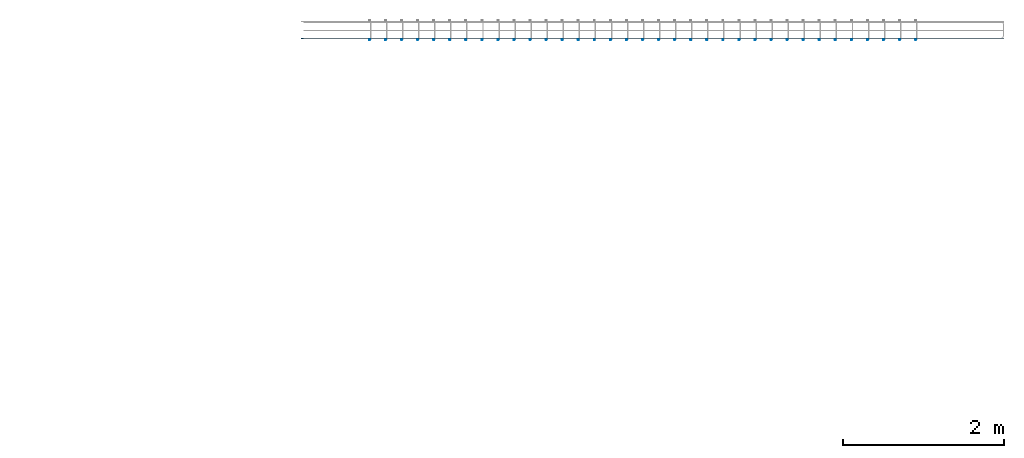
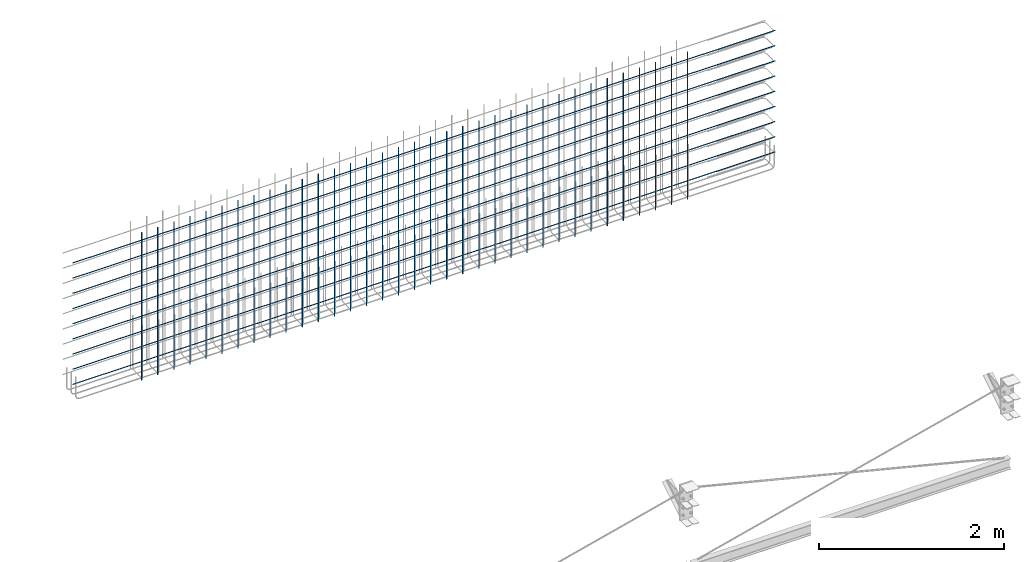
# One storey, part 3 of 21: 2 reinforcing bars.
"""IFC4X3_ADD2 building model written with IfcOpenShell, lengths in millimetres."""

from ifc_helpers import new_model, entity, si_unit, converted_unit, derived_unit, direction, frame, origin, place, context, subcontext, project, spatial, material, type_object, element, save


model = new_model("IFC4X3_ADD2")

# Units and contexts
model_context = context("Model", 3, precision=0.01, world=origin(), true_north=direction((6.123233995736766e-17, 1.0)))
plan_context = context("Plan", 3, precision=0.01, world=origin(), true_north=direction((6.123233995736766e-17, 1.0)))
body_context = subcontext(model_context, "Body", "Model", "MODEL_VIEW")
ifc_project = project(units=[si_unit("LENGTHUNIT", "METRE", prefix="MILLI"), converted_unit("PLANEANGLEUNIT", "DEGREE", entity("IfcPlaneAngleMeasure", 0.017453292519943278), si_unit("PLANEANGLEUNIT", "RADIAN"), dimensions=[0, 0, 0, 0, 0, 0, 0]), si_unit("AREAUNIT", "SQUARE_METRE"), si_unit("VOLUMEUNIT", "CUBIC_METRE"), derived_unit("THERMALTRANSMITTANCEUNIT", [(si_unit("MASSUNIT", "GRAM", prefix="KILO"), 1), (si_unit("THERMODYNAMICTEMPERATUREUNIT", "KELVIN"), -1), (si_unit("TIMEUNIT", "SECOND"), -3)]), derived_unit("USERDEFINED", [(si_unit("MASSUNIT", "GRAM", prefix="KILO"), 1), (si_unit("THERMODYNAMICTEMPERATUREUNIT", "KELVIN"), -1), (si_unit("TIMEUNIT", "SECOND"), -2)]), derived_unit("THERMALRESISTANCEUNIT", [(si_unit("MASSUNIT", "GRAM", prefix="KILO"), -1), (si_unit("TIMEUNIT", "SECOND"), 3), (si_unit("THERMODYNAMICTEMPERATUREUNIT", "KELVIN"), 1)]), si_unit("MASSUNIT", "GRAM", prefix="KILO"), derived_unit("MOMENTOFINERTIAUNIT", [(si_unit("LENGTHUNIT", "METRE"), 4)]), derived_unit("LINEARFORCEUNIT", [(si_unit("MASSUNIT", "GRAM", prefix="KILO"), 1), (si_unit("TIMEUNIT", "SECOND"), -2)]), derived_unit("WARPINGCONSTANTUNIT", [(si_unit("LENGTHUNIT", "METRE"), 6)]), si_unit("PRESSUREUNIT", "PASCAL"), derived_unit("MASSDENSITYUNIT", [(si_unit("MASSUNIT", "GRAM", prefix="KILO"), 1), (si_unit("LENGTHUNIT", "METRE"), -3)]), derived_unit("MODULUSOFELASTICITYUNIT", [(si_unit("MASSUNIT", "GRAM", prefix="KILO"), 1), (si_unit("TIMEUNIT", "SECOND"), -2), (si_unit("LENGTHUNIT", "METRE"), -1)]), derived_unit("THERMALEXPANSIONCOEFFICIENTUNIT", [(si_unit("THERMODYNAMICTEMPERATUREUNIT", "KELVIN"), -1)]), derived_unit("VAPORPERMEABILITYUNIT", [(si_unit("LENGTHUNIT", "METRE"), -1), (si_unit("TIMEUNIT", "SECOND"), 1)]), derived_unit("USERDEFINED", [(si_unit("MASSUNIT", "GRAM", prefix="KILO"), 1), (si_unit("TIMEUNIT", "SECOND"), -3), (si_unit("LENGTHUNIT", "METRE"), 3), (si_unit("ELECTRICCURRENTUNIT", "AMPERE"), -2)]), derived_unit("SPECIFICHEATCAPACITYUNIT", [(si_unit("THERMODYNAMICTEMPERATUREUNIT", "KELVIN"), -1), (si_unit("TIMEUNIT", "SECOND"), -2), (si_unit("LENGTHUNIT", "METRE"), 2)]), derived_unit("THERMALCONDUCTANCEUNIT", [(si_unit("MASSUNIT", "GRAM", prefix="KILO"), 1), (si_unit("THERMODYNAMICTEMPERATUREUNIT", "KELVIN"), -1), (si_unit("TIMEUNIT", "SECOND"), -3), (si_unit("LENGTHUNIT", "METRE"), 1)])], contexts=[model_context, plan_context])

# Site, building, storey
site_placement = place(None, origin())
site = spatial("IfcSite", under=ifc_project, at=site_placement, Name="Default", CompositionType="ELEMENT")
building_placement = place(site_placement, origin())
building = spatial("IfcBuilding", under=site, at=building_placement, Name="Complex structure", CompositionType="ELEMENT")
storey_placement = place(building_placement, frame((0.0, 0.0, 3000.0)))
storey = spatial("IfcBuildingStorey", under=building, at=storey_placement, Name="Level 01", CompositionType="ELEMENT", Elevation=3000.0)

# Reinforcing bars
ifc_material = material(Name="Steel Rebar - B500A, B or C", Category="Unassigned")
reinforcing_bar_type = type_object("IfcReinforcingBarType", Name="Rebar Bar:12mm", PredefinedType="NOTDEFINED")
reinforcing_bar_1_placement = place(storey_placement, origin())
element("IfcReinforcingBar", 1, at=reinforcing_bar_1_placement, inside=storey, type_object=reinforcing_bar_type, material=ifc_material, Name="Rebar Bar:12mm : Shape 00", ObjectType="Rebar Bar:12mm", context=body_context, shape_type="AdvancedSweptSolid", body=[
    entity("IfcSweptDiskSolid", entity("IfcCompositeCurve", [entity("IfcCompositeCurveSegment", "CONTINUOUS", True, entity("IfcPolyline", [entity("IfcCartesianPoint", [-8568.221550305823, 4618.133296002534, 25.0]), entity("IfcCartesianPoint", [-8568.221550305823, 4618.133296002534, 1970.6246980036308])]))], False), 6.0, None, 0.0, 1.0),
    entity("IfcSweptDiskSolid", entity("IfcCompositeCurve", [entity("IfcCompositeCurveSegment", "CONTINUOUS", True, entity("IfcPolyline", [entity("IfcCartesianPoint", [-8368.221550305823, 4618.133296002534, 25.0]), entity("IfcCartesianPoint", [-8368.221550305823, 4618.133296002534, 1970.6246980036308])]))], False), 6.0, None, 0.0, 1.0),
    entity("IfcSweptDiskSolid", entity("IfcCompositeCurve", [entity("IfcCompositeCurveSegment", "CONTINUOUS", True, entity("IfcPolyline", [entity("IfcCartesianPoint", [-8168.221550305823, 4618.133296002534, 25.0]), entity("IfcCartesianPoint", [-8168.221550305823, 4618.133296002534, 1970.6246980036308])]))], False), 6.0, None, 0.0, 1.0),
    entity("IfcSweptDiskSolid", entity("IfcCompositeCurve", [entity("IfcCompositeCurveSegment", "CONTINUOUS", True, entity("IfcPolyline", [entity("IfcCartesianPoint", [-7968.221550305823, 4618.133296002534, 25.0]), entity("IfcCartesianPoint", [-7968.221550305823, 4618.133296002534, 1970.6246980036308])]))], False), 6.0, None, 0.0, 1.0),
    entity("IfcSweptDiskSolid", entity("IfcCompositeCurve", [entity("IfcCompositeCurveSegment", "CONTINUOUS", True, entity("IfcPolyline", [entity("IfcCartesianPoint", [-7768.221550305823, 4618.133296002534, 25.0]), entity("IfcCartesianPoint", [-7768.221550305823, 4618.133296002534, 1970.6246980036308])]))], False), 6.0, None, 0.0, 1.0),
    entity("IfcSweptDiskSolid", entity("IfcCompositeCurve", [entity("IfcCompositeCurveSegment", "CONTINUOUS", True, entity("IfcPolyline", [entity("IfcCartesianPoint", [-7568.221550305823, 4618.133296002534, 25.0]), entity("IfcCartesianPoint", [-7568.221550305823, 4618.133296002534, 1970.6246980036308])]))], False), 6.0, None, 0.0, 1.0),
    entity("IfcSweptDiskSolid", entity("IfcCompositeCurve", [entity("IfcCompositeCurveSegment", "CONTINUOUS", True, entity("IfcPolyline", [entity("IfcCartesianPoint", [-7368.221550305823, 4618.133296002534, 25.0]), entity("IfcCartesianPoint", [-7368.221550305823, 4618.133296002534, 1970.6246980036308])]))], False), 6.0, None, 0.0, 1.0),
    entity("IfcSweptDiskSolid", entity("IfcCompositeCurve", [entity("IfcCompositeCurveSegment", "CONTINUOUS", True, entity("IfcPolyline", [entity("IfcCartesianPoint", [-7168.221550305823, 4618.133296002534, 25.0]), entity("IfcCartesianPoint", [-7168.221550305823, 4618.133296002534, 1970.6246980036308])]))], False), 6.0, None, 0.0, 1.0),
    entity("IfcSweptDiskSolid", entity("IfcCompositeCurve", [entity("IfcCompositeCurveSegment", "CONTINUOUS", True, entity("IfcPolyline", [entity("IfcCartesianPoint", [-6968.221550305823, 4618.133296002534, 25.0]), entity("IfcCartesianPoint", [-6968.221550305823, 4618.133296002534, 1970.6246980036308])]))], False), 6.0, None, 0.0, 1.0),
    entity("IfcSweptDiskSolid", entity("IfcCompositeCurve", [entity("IfcCompositeCurveSegment", "CONTINUOUS", True, entity("IfcPolyline", [entity("IfcCartesianPoint", [-6768.221550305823, 4618.133296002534, 25.0]), entity("IfcCartesianPoint", [-6768.221550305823, 4618.133296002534, 1970.6246980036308])]))], False), 6.0, None, 0.0, 1.0),
    entity("IfcSweptDiskSolid", entity("IfcCompositeCurve", [entity("IfcCompositeCurveSegment", "CONTINUOUS", True, entity("IfcPolyline", [entity("IfcCartesianPoint", [-6568.221550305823, 4618.133296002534, 25.0]), entity("IfcCartesianPoint", [-6568.221550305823, 4618.133296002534, 1970.6246980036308])]))], False), 6.0, None, 0.0, 1.0),
    entity("IfcSweptDiskSolid", entity("IfcCompositeCurve", [entity("IfcCompositeCurveSegment", "CONTINUOUS", True, entity("IfcPolyline", [entity("IfcCartesianPoint", [-6368.221550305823, 4618.133296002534, 25.0]), entity("IfcCartesianPoint", [-6368.221550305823, 4618.133296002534, 1970.6246980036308])]))], False), 6.0, None, 0.0, 1.0),
    entity("IfcSweptDiskSolid", entity("IfcCompositeCurve", [entity("IfcCompositeCurveSegment", "CONTINUOUS", True, entity("IfcPolyline", [entity("IfcCartesianPoint", [-6168.221550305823, 4618.133296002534, 25.0]), entity("IfcCartesianPoint", [-6168.221550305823, 4618.133296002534, 1970.6246980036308])]))], False), 6.0, None, 0.0, 1.0),
    entity("IfcSweptDiskSolid", entity("IfcCompositeCurve", [entity("IfcCompositeCurveSegment", "CONTINUOUS", True, entity("IfcPolyline", [entity("IfcCartesianPoint", [-5968.221550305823, 4618.133296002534, 25.0]), entity("IfcCartesianPoint", [-5968.221550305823, 4618.133296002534, 1970.6246980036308])]))], False), 6.0, None, 0.0, 1.0),
    entity("IfcSweptDiskSolid", entity("IfcCompositeCurve", [entity("IfcCompositeCurveSegment", "CONTINUOUS", True, entity("IfcPolyline", [entity("IfcCartesianPoint", [-5768.221550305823, 4618.133296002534, 25.0]), entity("IfcCartesianPoint", [-5768.221550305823, 4618.133296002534, 1970.6246980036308])]))], False), 6.0, None, 0.0, 1.0),
    entity("IfcSweptDiskSolid", entity("IfcCompositeCurve", [entity("IfcCompositeCurveSegment", "CONTINUOUS", True, entity("IfcPolyline", [entity("IfcCartesianPoint", [-5568.221550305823, 4618.133296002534, 25.0]), entity("IfcCartesianPoint", [-5568.221550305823, 4618.133296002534, 1970.6246980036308])]))], False), 6.0, None, 0.0, 1.0),
    entity("IfcSweptDiskSolid", entity("IfcCompositeCurve", [entity("IfcCompositeCurveSegment", "CONTINUOUS", True, entity("IfcPolyline", [entity("IfcCartesianPoint", [-5368.221550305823, 4618.133296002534, 25.0]), entity("IfcCartesianPoint", [-5368.221550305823, 4618.133296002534, 1970.6246980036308])]))], False), 6.0, None, 0.0, 1.0),
    entity("IfcSweptDiskSolid", entity("IfcCompositeCurve", [entity("IfcCompositeCurveSegment", "CONTINUOUS", True, entity("IfcPolyline", [entity("IfcCartesianPoint", [-5168.221550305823, 4618.133296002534, 25.0]), entity("IfcCartesianPoint", [-5168.221550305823, 4618.133296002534, 1970.6246980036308])]))], False), 6.0, None, 0.0, 1.0),
    entity("IfcSweptDiskSolid", entity("IfcCompositeCurve", [entity("IfcCompositeCurveSegment", "CONTINUOUS", True, entity("IfcPolyline", [entity("IfcCartesianPoint", [-4968.221550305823, 4618.133296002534, 25.0]), entity("IfcCartesianPoint", [-4968.221550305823, 4618.133296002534, 1970.6246980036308])]))], False), 6.0, None, 0.0, 1.0),
    entity("IfcSweptDiskSolid", entity("IfcCompositeCurve", [entity("IfcCompositeCurveSegment", "CONTINUOUS", True, entity("IfcPolyline", [entity("IfcCartesianPoint", [-4768.221550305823, 4618.133296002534, 25.0]), entity("IfcCartesianPoint", [-4768.221550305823, 4618.133296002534, 1970.6246980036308])]))], False), 6.0, None, 0.0, 1.0),
    entity("IfcSweptDiskSolid", entity("IfcCompositeCurve", [entity("IfcCompositeCurveSegment", "CONTINUOUS", True, entity("IfcPolyline", [entity("IfcCartesianPoint", [-4568.221550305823, 4618.133296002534, 25.0]), entity("IfcCartesianPoint", [-4568.221550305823, 4618.133296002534, 1970.6246980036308])]))], False), 6.0, None, 0.0, 1.0),
    entity("IfcSweptDiskSolid", entity("IfcCompositeCurve", [entity("IfcCompositeCurveSegment", "CONTINUOUS", True, entity("IfcPolyline", [entity("IfcCartesianPoint", [-4368.221550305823, 4618.133296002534, 25.0]), entity("IfcCartesianPoint", [-4368.221550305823, 4618.133296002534, 1970.6246980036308])]))], False), 6.0, None, 0.0, 1.0),
    entity("IfcSweptDiskSolid", entity("IfcCompositeCurve", [entity("IfcCompositeCurveSegment", "CONTINUOUS", True, entity("IfcPolyline", [entity("IfcCartesianPoint", [-4168.221550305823, 4618.133296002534, 25.0]), entity("IfcCartesianPoint", [-4168.221550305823, 4618.133296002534, 1970.6246980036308])]))], False), 6.0, None, 0.0, 1.0),
    entity("IfcSweptDiskSolid", entity("IfcCompositeCurve", [entity("IfcCompositeCurveSegment", "CONTINUOUS", True, entity("IfcPolyline", [entity("IfcCartesianPoint", [-3968.2215503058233, 4618.133296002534, 25.0]), entity("IfcCartesianPoint", [-3968.2215503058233, 4618.133296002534, 1970.6246980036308])]))], False), 6.0, None, 0.0, 1.0),
    entity("IfcSweptDiskSolid", entity("IfcCompositeCurve", [entity("IfcCompositeCurveSegment", "CONTINUOUS", True, entity("IfcPolyline", [entity("IfcCartesianPoint", [-3768.221550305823, 4618.133296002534, 25.0]), entity("IfcCartesianPoint", [-3768.221550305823, 4618.133296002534, 1970.6246980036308])]))], False), 6.0, None, 0.0, 1.0),
    entity("IfcSweptDiskSolid", entity("IfcCompositeCurve", [entity("IfcCompositeCurveSegment", "CONTINUOUS", True, entity("IfcPolyline", [entity("IfcCartesianPoint", [-3568.2215503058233, 4618.133296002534, 25.0]), entity("IfcCartesianPoint", [-3568.2215503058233, 4618.133296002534, 1970.6246980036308])]))], False), 6.0, None, 0.0, 1.0),
    entity("IfcSweptDiskSolid", entity("IfcCompositeCurve", [entity("IfcCompositeCurveSegment", "CONTINUOUS", True, entity("IfcPolyline", [entity("IfcCartesianPoint", [-3368.2215503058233, 4618.133296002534, 25.0]), entity("IfcCartesianPoint", [-3368.2215503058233, 4618.133296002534, 1970.6246980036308])]))], False), 6.0, None, 0.0, 1.0),
    entity("IfcSweptDiskSolid", entity("IfcCompositeCurve", [entity("IfcCompositeCurveSegment", "CONTINUOUS", True, entity("IfcPolyline", [entity("IfcCartesianPoint", [-3168.2215503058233, 4618.133296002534, 25.0]), entity("IfcCartesianPoint", [-3168.2215503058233, 4618.133296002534, 1970.6246980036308])]))], False), 6.0, None, 0.0, 1.0),
    entity("IfcSweptDiskSolid", entity("IfcCompositeCurve", [entity("IfcCompositeCurveSegment", "CONTINUOUS", True, entity("IfcPolyline", [entity("IfcCartesianPoint", [-2968.2215503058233, 4618.133296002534, 25.0]), entity("IfcCartesianPoint", [-2968.2215503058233, 4618.133296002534, 1970.6246980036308])]))], False), 6.0, None, 0.0, 1.0),
    entity("IfcSweptDiskSolid", entity("IfcCompositeCurve", [entity("IfcCompositeCurveSegment", "CONTINUOUS", True, entity("IfcPolyline", [entity("IfcCartesianPoint", [-2768.2215503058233, 4618.133296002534, 25.0]), entity("IfcCartesianPoint", [-2768.2215503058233, 4618.133296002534, 1970.6246980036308])]))], False), 6.0, None, 0.0, 1.0),
    entity("IfcSweptDiskSolid", entity("IfcCompositeCurve", [entity("IfcCompositeCurveSegment", "CONTINUOUS", True, entity("IfcPolyline", [entity("IfcCartesianPoint", [-2568.2215503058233, 4618.133296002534, 25.0]), entity("IfcCartesianPoint", [-2568.2215503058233, 4618.133296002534, 1970.6246980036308])]))], False), 6.0, None, 0.0, 1.0),
    entity("IfcSweptDiskSolid", entity("IfcCompositeCurve", [entity("IfcCompositeCurveSegment", "CONTINUOUS", True, entity("IfcPolyline", [entity("IfcCartesianPoint", [-2368.2215503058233, 4618.133296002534, 25.0]), entity("IfcCartesianPoint", [-2368.2215503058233, 4618.133296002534, 1970.6246980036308])]))], False), 6.0, None, 0.0, 1.0),
    entity("IfcSweptDiskSolid", entity("IfcCompositeCurve", [entity("IfcCompositeCurveSegment", "CONTINUOUS", True, entity("IfcPolyline", [entity("IfcCartesianPoint", [-2168.2215503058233, 4618.133296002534, 25.0]), entity("IfcCartesianPoint", [-2168.2215503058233, 4618.133296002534, 1970.6246980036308])]))], False), 6.0, None, 0.0, 1.0),
    entity("IfcSweptDiskSolid", entity("IfcCompositeCurve", [entity("IfcCompositeCurveSegment", "CONTINUOUS", True, entity("IfcPolyline", [entity("IfcCartesianPoint", [-1968.221550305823, 4618.133296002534, 25.0]), entity("IfcCartesianPoint", [-1968.221550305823, 4618.133296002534, 1970.6246980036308])]))], False), 6.0, None, 0.0, 1.0),
    entity("IfcSweptDiskSolid", entity("IfcCompositeCurve", [entity("IfcCompositeCurveSegment", "CONTINUOUS", True, entity("IfcPolyline", [entity("IfcCartesianPoint", [-1768.221550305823, 4618.133296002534, 25.0]), entity("IfcCartesianPoint", [-1768.221550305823, 4618.133296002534, 1970.6246980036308])]))], False), 6.0, None, 0.0, 1.0),
])
reinforcing_bar_2_placement = place(storey_placement, origin())
element("IfcReinforcingBar", 2, at=reinforcing_bar_2_placement, inside=storey, type_object=reinforcing_bar_type, material=ifc_material, Name="Rebar Bar:12mm : Shape 00", ObjectType="Rebar Bar:12mm", context=body_context, shape_type="AdvancedSweptSolid", body=[
    entity("IfcSweptDiskSolid", entity("IfcCompositeCurve", [entity("IfcCompositeCurveSegment", "CONTINUOUS", True, entity("IfcPolyline", [entity("IfcCartesianPoint", [-670.2215503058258, 4630.133296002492, 259.0]), entity("IfcCartesianPoint", [-9420.221550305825, 4630.13329600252, 259.0])]))], False), 6.0, None, 0.0, 1.0),
    entity("IfcSweptDiskSolid", entity("IfcCompositeCurve", [entity("IfcCompositeCurveSegment", "CONTINUOUS", True, entity("IfcPolyline", [entity("IfcCartesianPoint", [-670.2215503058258, 4630.133296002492, 459.0]), entity("IfcCartesianPoint", [-9420.221550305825, 4630.13329600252, 459.0])]))], False), 6.0, None, 0.0, 1.0),
    entity("IfcSweptDiskSolid", entity("IfcCompositeCurve", [entity("IfcCompositeCurveSegment", "CONTINUOUS", True, entity("IfcPolyline", [entity("IfcCartesianPoint", [-670.2215503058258, 4630.133296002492, 659.0]), entity("IfcCartesianPoint", [-9420.221550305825, 4630.13329600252, 659.0])]))], False), 6.0, None, 0.0, 1.0),
    entity("IfcSweptDiskSolid", entity("IfcCompositeCurve", [entity("IfcCompositeCurveSegment", "CONTINUOUS", True, entity("IfcPolyline", [entity("IfcCartesianPoint", [-670.2215503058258, 4630.133296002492, 859.0]), entity("IfcCartesianPoint", [-9420.221550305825, 4630.13329600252, 859.0])]))], False), 6.0, None, 0.0, 1.0),
    entity("IfcSweptDiskSolid", entity("IfcCompositeCurve", [entity("IfcCompositeCurveSegment", "CONTINUOUS", True, entity("IfcPolyline", [entity("IfcCartesianPoint", [-670.2215503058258, 4630.133296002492, 1059.0]), entity("IfcCartesianPoint", [-9420.221550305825, 4630.13329600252, 1059.0])]))], False), 6.0, None, 0.0, 1.0),
    entity("IfcSweptDiskSolid", entity("IfcCompositeCurve", [entity("IfcCompositeCurveSegment", "CONTINUOUS", True, entity("IfcPolyline", [entity("IfcCartesianPoint", [-670.2215503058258, 4630.133296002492, 1259.0]), entity("IfcCartesianPoint", [-9420.221550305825, 4630.13329600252, 1259.0])]))], False), 6.0, None, 0.0, 1.0),
    entity("IfcSweptDiskSolid", entity("IfcCompositeCurve", [entity("IfcCompositeCurveSegment", "CONTINUOUS", True, entity("IfcPolyline", [entity("IfcCartesianPoint", [-670.2215503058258, 4630.133296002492, 1459.0]), entity("IfcCartesianPoint", [-9420.221550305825, 4630.13329600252, 1459.0])]))], False), 6.0, None, 0.0, 1.0),
    entity("IfcSweptDiskSolid", entity("IfcCompositeCurve", [entity("IfcCompositeCurveSegment", "CONTINUOUS", True, entity("IfcPolyline", [entity("IfcCartesianPoint", [-670.2215503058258, 4630.133296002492, 1659.0]), entity("IfcCartesianPoint", [-9420.221550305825, 4630.13329600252, 1659.0])]))], False), 6.0, None, 0.0, 1.0),
    entity("IfcSweptDiskSolid", entity("IfcCompositeCurve", [entity("IfcCompositeCurveSegment", "CONTINUOUS", True, entity("IfcPolyline", [entity("IfcCartesianPoint", [-670.2215503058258, 4630.133296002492, 1859.0]), entity("IfcCartesianPoint", [-9420.221550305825, 4630.13329600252, 1859.0])]))], False), 6.0, None, 0.0, 1.0),
])

save(model, "model.ifc")
